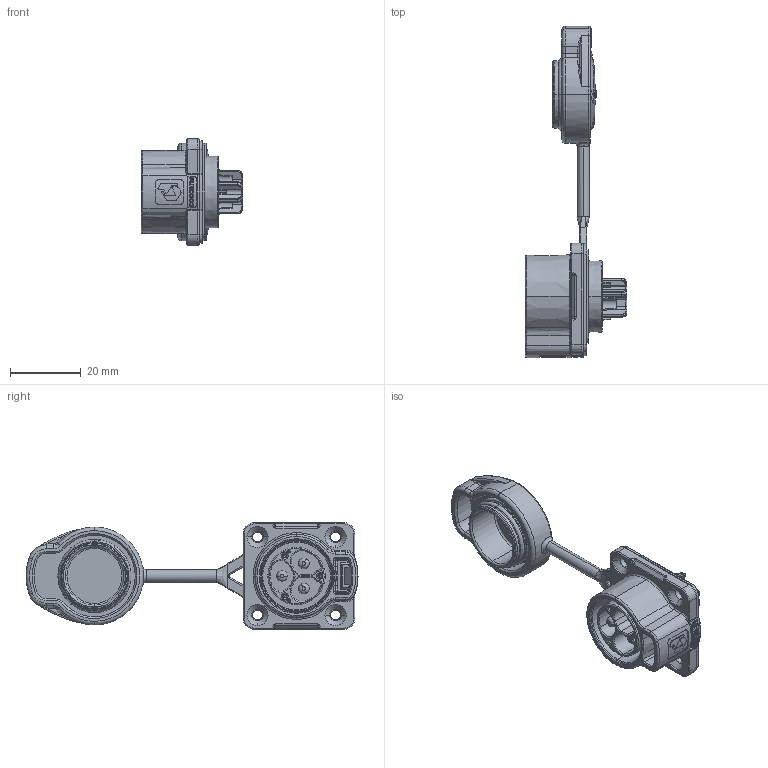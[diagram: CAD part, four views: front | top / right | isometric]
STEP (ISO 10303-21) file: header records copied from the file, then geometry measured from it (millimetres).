
FILE_DESCRIPTION (( 'STEP AP203' ), '1' );
FILE_NAME ('PLG20 3+3郋侐謂脣釱.STEP', '2025-09-18T08:03:02', ( '' ), ( '' ), 'SwSTEP 2.0', 'SolidWorks 2024', '' );
FILE_SCHEMA (( 'CONFIG_CONTROL_DESIGN' ));
Length unit declared in the file: millimetre
Products named in the file (1): PLG20 3+3芯四孔插座
Bounding box: 28.7 x 93.64 x 30 mm (x, y, z)
Volume: 12940.4 mm3; surface area: 11860.6 mm2
Topology: 1 solids, 6 shells, 1483 faces, 3695 edges, 2257 vertices
Faces by surface type: cylinder 453, plane 376, torus 290, bspline 265, cone 87, sphere 12
Entity records: 53624 total; most frequent: CARTESIAN_POINT 20023, ORIENTED_EDGE 7338, DIRECTION 6709, EDGE_CURVE 3669, AXIS2_PLACEMENT_3D 2708, VERTEX_POINT 2257, EDGE_LOOP 1558, CIRCLE 1489
